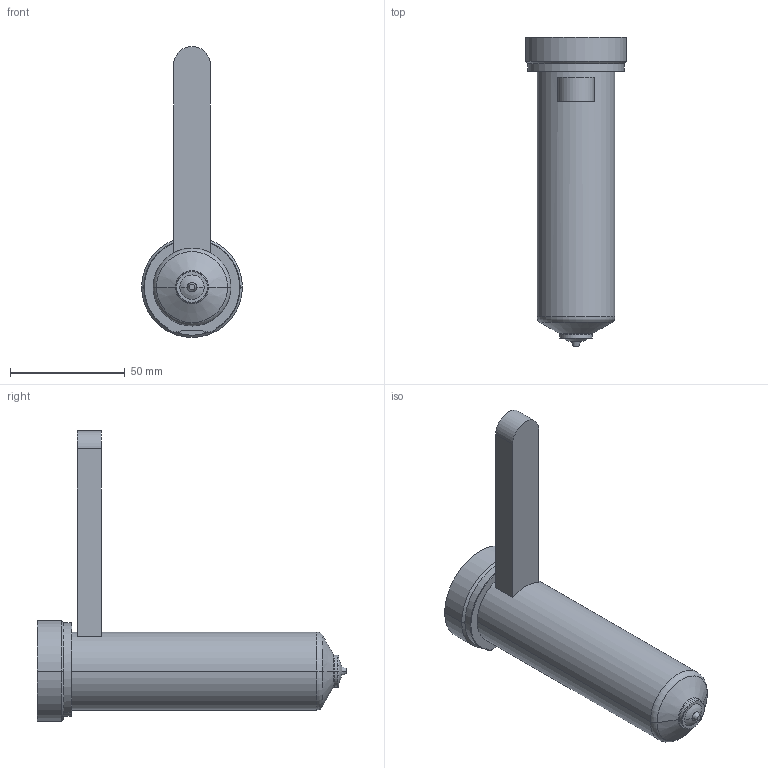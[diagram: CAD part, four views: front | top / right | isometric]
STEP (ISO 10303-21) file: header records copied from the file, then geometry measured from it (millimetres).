
FILE_DESCRIPTION((''),'2;1');
FILE_NAME('EO10_VG-BL_STD_120_COT','2024-02-19T13:09:45',('sundharh'),(''),'CREO PARAMETRIC BY PTC INC, 2023154','CREO PARAMETRIC BY PTC INC, 2023154','');
FILE_SCHEMA(('CONFIG_CONTROL_DESIGN'));
Length unit declared in the file: millimetre
Products named in the file (1): EO10_VG-BL_STD_120_COT
Bounding box: 44 x 135 x 127 mm (x, y, z)
Volume: 138565 mm3; surface area: 21385.1 mm2
Topology: 1 solids, 1 shells, 38 faces, 81 edges, 48 vertices
Faces by surface type: cylinder 11, plane 10, torus 9, cone 6, sphere 2
Entity records: 1143 total; most frequent: CARTESIAN_POINT 255, DIRECTION 199, ORIENTED_EDGE 162, AXIS2_PLACEMENT_3D 86, EDGE_CURVE 81, VERTEX_POINT 48, CIRCLE 48, EDGE_LOOP 41
